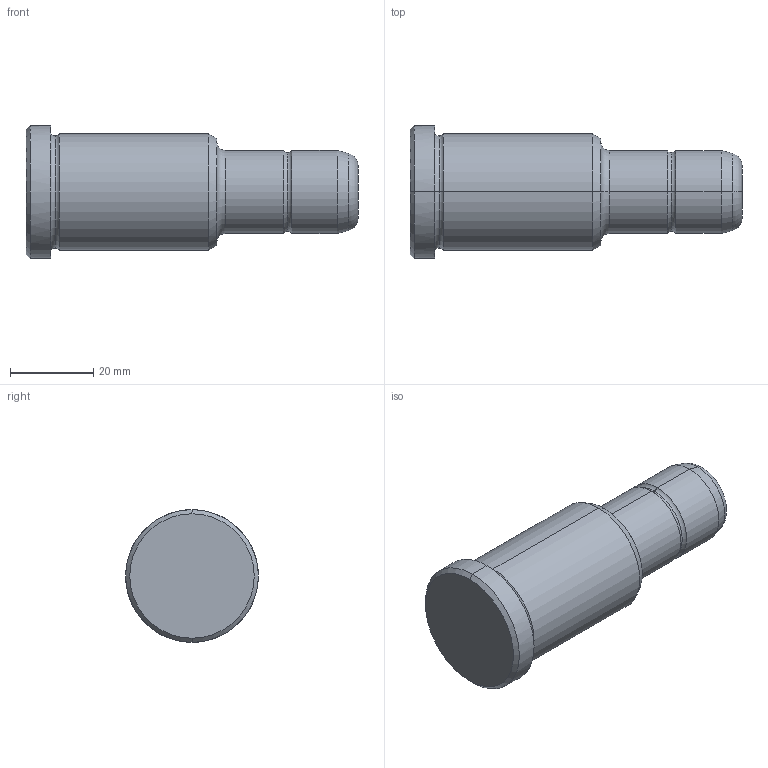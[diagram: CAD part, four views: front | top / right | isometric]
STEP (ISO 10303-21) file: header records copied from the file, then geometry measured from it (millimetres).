
FILE_DESCRIPTION(('CATIA V5 STEP Exchange'),'2;1');
FILE_NAME('C:\Users\Utente\Desktop\IO LAVORO\3D X SITO CF\X SITO\PLASTICA\351\351-20X46X80.stp','2021-08-27T12:59:18+00:00',('none'),('none'),'CATIA Version 5 Release 20 GA (IN-10)','CATIA V5 STEP AP203','none');
FILE_SCHEMA(('CONFIG_CONTROL_DESIGN'));
Length unit declared in the file: millimetre
Products named in the file (1): 351-20X46X80
Bounding box: 80 x 32 x 32 mm (x, y, z)
Volume: 39687.8 mm3; surface area: 7585.4 mm2
Topology: 1 solids, 1 shells, 30 faces, 86 edges, 60 vertices
Faces by surface type: torus 12, cylinder 8, cone 6, plane 4
Entity records: 1112 total; most frequent: CARTESIAN_POINT 289, ORIENTED_EDGE 172, DIRECTION 138, AXIS2_PLACEMENT_3D 95, EDGE_CURVE 86, CIRCLE 64, VERTEX_POINT 60, EDGE_LOOP 32
